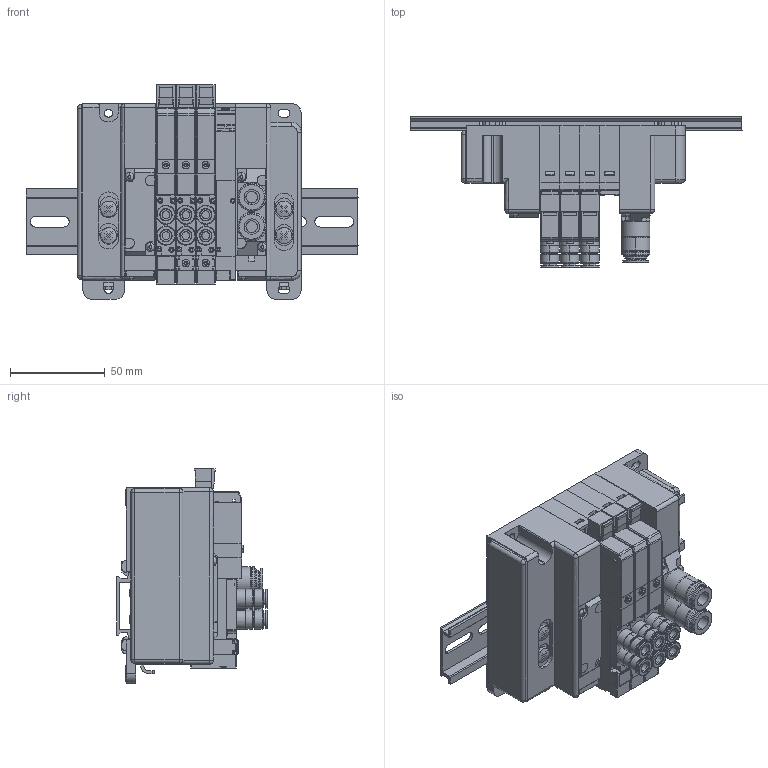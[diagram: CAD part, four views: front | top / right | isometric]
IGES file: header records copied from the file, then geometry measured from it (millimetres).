
Start section: ------------------------------------------------------------------------
Global section: file name: D:\ICADMX\tmp\trans3d_spg\CVICAD02.2536.F10M4XN-JR-DN_14463.igs; native system: spGate; preprocessor: ver12.6.6; author: Unknown; organization: Unknown; date: 200901.145451; units: millimetre
Bounding box: 175 x 79.5 x 113 mm (x, y, z)
Volume: 471257.7 mm3; surface area: 157233.1 mm2
Topology: 38 solids, 38 shells, 3647 faces, 9876 edges, 6863 vertices
Faces by surface type: bspline 3647
